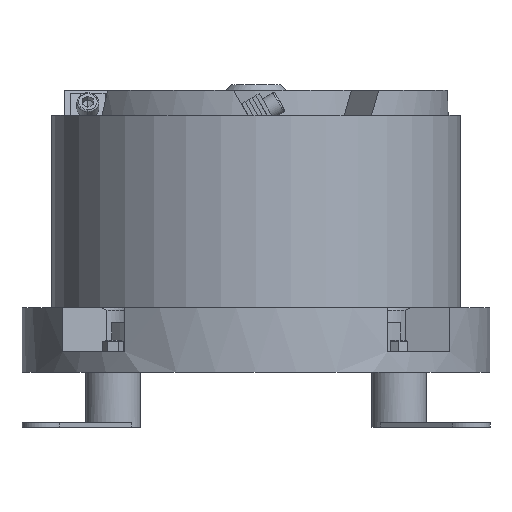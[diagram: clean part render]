
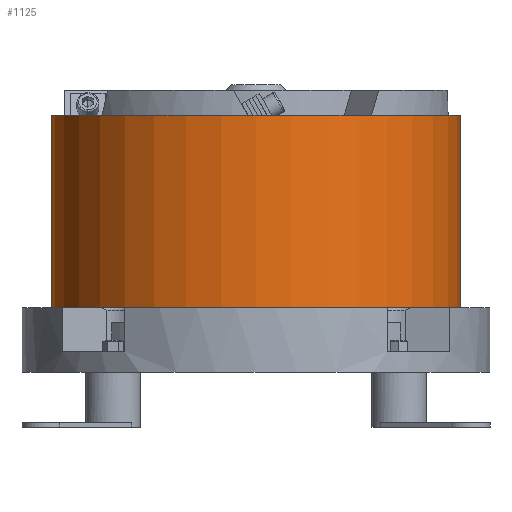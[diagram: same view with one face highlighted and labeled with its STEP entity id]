
A CAD part, front view. The second image highlights one B-rep face of the part: STEP entity #1125.
In plain terms, the highlighted cylindrical face has radius 148.5 mm (diameter 297 mm), a partial arc.
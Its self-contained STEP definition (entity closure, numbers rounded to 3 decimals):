
#510=CYLINDRICAL_SURFACE('',#9170,148.5);
#672=FACE_OUTER_BOUND('',#3520,.T.);
#1125=ADVANCED_FACE('NONE',(#672),#510,.T.);
#1956=LINE('',#12902,#2659);
#1957=LINE('',#12903,#2660);
#2659=VECTOR('',#10225,1.);
#2660=VECTOR('',#10226,1.);
#3520=EDGE_LOOP('',(#4189,#4190,#4191,#4192));
#4189=ORIENTED_EDGE('',*,*,#7464,.F.);
#4190=ORIENTED_EDGE('',*,*,#7459,.T.);
#4191=ORIENTED_EDGE('',*,*,#7465,.T.);
#4192=ORIENTED_EDGE('',*,*,#7461,.T.);
#6639=VERTEX_POINT('',#12891);
#6640=VERTEX_POINT('',#12892);
#6641=VERTEX_POINT('',#12897);
#6642=VERTEX_POINT('',#12898);
#7459=EDGE_CURVE('NONE',#6640,#6639,#8682,.T.);
#7461=EDGE_CURVE('NONE',#6641,#6642,#8684,.T.);
#7464=EDGE_CURVE('NONE',#6640,#6642,#1956,.T.);
#7465=EDGE_CURVE('NONE',#6639,#6641,#1957,.T.);
#8682=CIRCLE('',#9163,148.5);
#8684=CIRCLE('',#9166,148.5);
#9163=AXIS2_PLACEMENT_3D('',#12893,#10211,#10212);
#9166=AXIS2_PLACEMENT_3D('',#12896,#10217,#10218);
#9170=AXIS2_PLACEMENT_3D('',#12904,#10227,#10228);
#10211=DIRECTION('',(0.,0.,1.));
#10212=DIRECTION('',(1.,0.,0.));
#10217=DIRECTION('',(0.,0.,-1.));
#10218=DIRECTION('',(1.,0.,0.));
#10225=DIRECTION('',(0.,0.,1.));
#10226=DIRECTION('',(0.,0.,1.));
#10227=DIRECTION('',(0.,0.,1.));
#10228=DIRECTION('',(1.,0.,0.));
#12891=CARTESIAN_POINT('',(-3280.39,-3704.786,-6.));
#12892=CARTESIAN_POINT('',(-3577.39,-3704.786,-6.));
#12893=CARTESIAN_POINT('',(-3428.89,-3704.786,-6.));
#12896=CARTESIAN_POINT('',(-3428.89,-3704.786,134.));
#12897=CARTESIAN_POINT('',(-3280.39,-3704.786,134.));
#12898=CARTESIAN_POINT('',(-3577.39,-3704.786,134.));
#12902=CARTESIAN_POINT('',(-3577.39,-3704.786,-6.));
#12903=CARTESIAN_POINT('',(-3280.39,-3704.786,-6.));
#12904=CARTESIAN_POINT('',(-3428.89,-3704.786,-6.));
